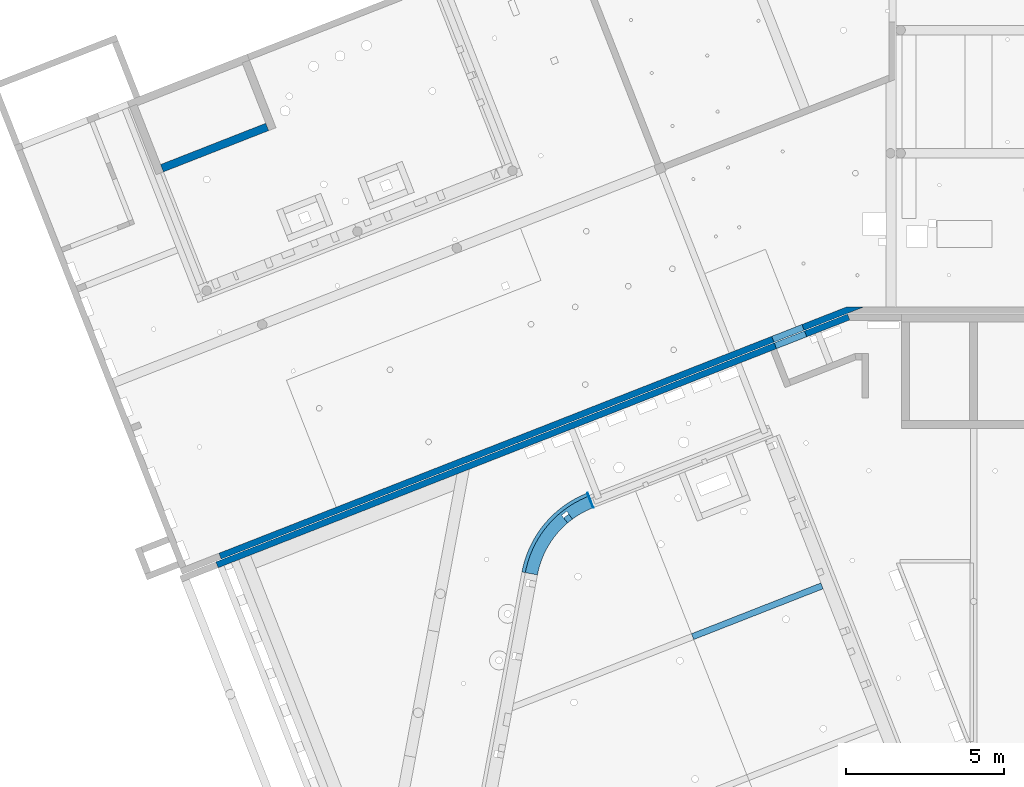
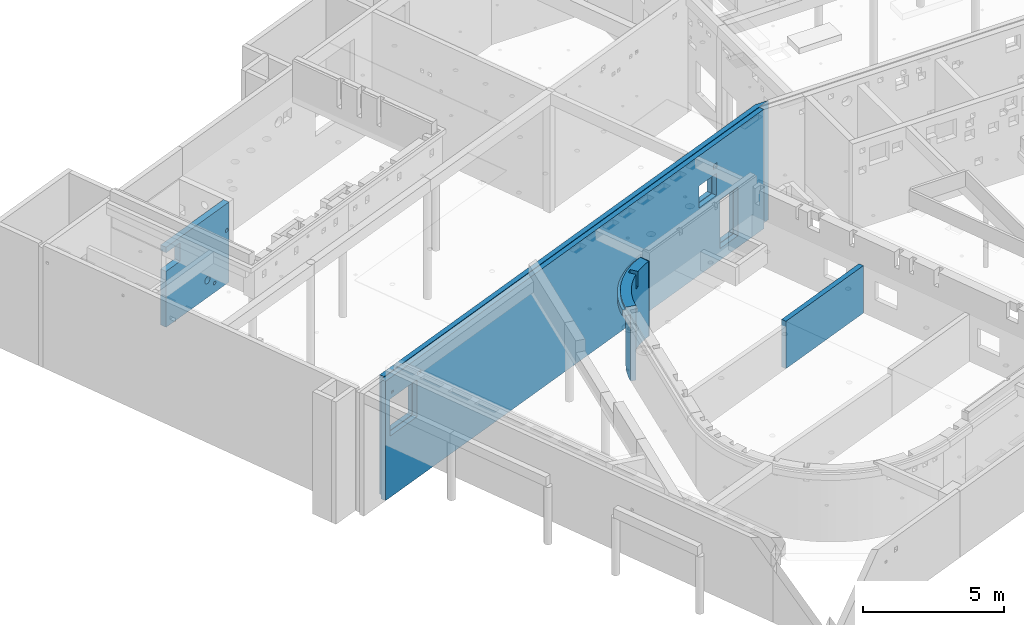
# One storey, part 17 of 28: 6 walls, 19 openings.
"""IFC2X3 building model written with IfcOpenShell, lengths in metres."""

from ifc_helpers import new_model, entity, si_unit, converted_unit, direction, frame, frame_2d, origin, origin_with_axes, place, context, subcontext, project, spatial, polyline, rectangle, outline, extrude, clip, bounded_halfspace, material, layer, layer_set, layer_usage, element, save


model = new_model("IFC2X3")

# Units and contexts
model_context = context("Model", 3, precision=1e-05, world=origin(), true_north=direction((-0.407059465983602, -0.913401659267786)))
body_context = subcontext(model_context, "Body", "Model", "MODEL_VIEW")
ifc_project = project(units=[si_unit("LENGTHUNIT", "METRE"), si_unit("AREAUNIT", "SQUARE_METRE"), si_unit("VOLUMEUNIT", "CUBIC_METRE"), si_unit("MASSUNIT", "GRAM", prefix="KILO"), converted_unit("PLANEANGLEUNIT", "DEGREE", entity("IfcPlaneAngleMeasure", 0.0174532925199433), si_unit("PLANEANGLEUNIT", "RADIAN"), dimensions=[0, 0, 0, 0, 0, 0, 0])], contexts=[model_context])

# Site, buildings, storey
site_placement = place(None, origin())
site = spatial("IfcSite", under=ifc_project, at=site_placement, Name="Site", CompositionType="ELEMENT")
building_1_placement = place(site_placement, origin())
building_1 = spatial("IfcBuilding", under=site, at=building_1_placement, Name="Site", CompositionType="COMPLEX")
building_2_placement = place(building_1_placement, origin())
building_2 = spatial("IfcBuilding", under=building_1, at=building_2_placement, Name="Bâtiments", CompositionType="ELEMENT")
storey_placement = place(building_2_placement, frame((0.0, 0.0, -5.3)))
storey = spatial("IfcBuildingStorey", under=building_2, at=storey_placement, Name="SOUS-SOL", CompositionType="ELEMENT", Elevation=-5.3)

# Wall, openings
ifc_material_1 = material(Name="Béton")
ifc_layer_1 = layer(ifc_material_1, 0.249999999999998)
ifc_layer_set_1 = layer_set([ifc_layer_1])
ifc_layer_usage_1 = layer_usage(ifc_layer_set_1, "AXIS2", "POSITIVE", 0.0)
wall_1_placement = place(storey_placement, frame((4.69306005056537, -0.737175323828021, 0.5), z_axis=(0.0, 0.0, 1.0), x_axis=(0.930910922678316, 0.365246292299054, 0.0)))
wall_1 = element("IfcWallStandardCase", 1, at=wall_1_placement, inside=storey, material=ifc_layer_usage_1, context=body_context, shape_type="SweptSolid", body=[
    extrude(rectangle(XDim=3.57767559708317, YDim=0.249999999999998, at=frame_2d((1.78883779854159, 0.124999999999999), x_axis=(1.0, 0.0))), origin_with_axes(), (0.0, 0.0, 1.0), 3.46),
])
opening_1_placement = place(wall_1_placement, frame((2.49749567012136, 0.249999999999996, 0.610000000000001), z_axis=(3.63797880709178e-15, -1.0, 0.0), x_axis=(0.0, 0.0, 1.0)))
element("IfcOpeningElement", 2, at=opening_1_placement, cuts=wall_1, Name="CVC-011", ObjectType="Opening", context=body_context, shape_type="SweptSolid", body=[
    extrude(outline(polyline([(0.15, 0.300000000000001), (0.165679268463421, 0.299178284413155), (0.181186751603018, 0.296722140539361), (0.196352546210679, 0.292658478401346), (0.211010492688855, 0.287031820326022), (0.224999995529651, 0.279903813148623), (0.23816778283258, 0.271352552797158), (0.250369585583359, 0.261471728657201), (0.261471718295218, 0.250369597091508), (0.271352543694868, 0.238167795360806), (0.279903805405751, 0.225000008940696), (0.287031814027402, 0.211010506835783), (0.292658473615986, 0.196352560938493), (0.296722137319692, 0.181186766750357), (0.299178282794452, 0.165679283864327), (0.299999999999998, 0.15000001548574), (0.299178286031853, 0.134320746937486), (0.296722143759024, 0.11881326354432), (0.292658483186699, 0.103647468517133), (0.287031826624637, 0.0889895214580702), (0.27990382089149, 0.0750000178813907), (0.271352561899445, 0.0618322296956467), (0.261471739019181, 0.0496304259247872), (0.250369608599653, 0.0385282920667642), (0.238167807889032, 0.02864746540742), (0.225000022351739, 0.0200962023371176), (0.211010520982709, 0.0129681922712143), (0.196352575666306, 0.00734153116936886), (0.181186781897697, 0.00327786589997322), (0.165679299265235, 0.00082171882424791), (0.149999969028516, 0.0), (0.13432070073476, 0.00082171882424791), (0.118813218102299, 0.00327786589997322), (0.103647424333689, 0.00734153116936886), (0.0889894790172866, 0.0129681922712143), (0.0749999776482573, 0.0200962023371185), (0.0618321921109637, 0.0286474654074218), (0.0496303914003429, 0.038528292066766), (0.0385282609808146, 0.0496304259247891), (0.0286474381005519, 0.0618322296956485), (0.0200961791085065, 0.0750000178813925), (0.0129681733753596, 0.088989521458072), (0.00734151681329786, 0.103647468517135), (0.00327785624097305, 0.118813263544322), (0.00082171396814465, 0.134320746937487), (0.0, 0.150000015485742), (0.00082171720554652, 0.165679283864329), (0.0032778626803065, 0.181186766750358), (0.00734152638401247, 0.196352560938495), (0.0129681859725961, 0.211010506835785), (0.0200961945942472, 0.225000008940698), (0.0286474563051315, 0.238167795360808), (0.038528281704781, 0.25036959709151), (0.0496304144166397, 0.261471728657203), (0.0618322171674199, 0.27135255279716), (0.0750000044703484, 0.279903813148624), (0.0889895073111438, 0.287031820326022), (0.10364745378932, 0.292658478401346), (0.118813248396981, 0.296722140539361), (0.134320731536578, 0.299178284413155), (0.15, 0.300000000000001)])), origin_with_axes(), (0.0, 0.0, 1.0), 0.249999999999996),
])
opening_2_placement = place(wall_1_placement, frame((3.08969991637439, 2.27373675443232e-16, -0.283), z_axis=(1.81898940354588e-15, 1.0, 0.0), x_axis=(0.0, 0.0, 1.0)))
element("IfcOpeningElement", 3, at=opening_2_placement, cuts=wall_1, Name="Incorp. TE-019", ObjectType="Opening", context=body_context, shape_type="SweptSolid", body=[
    extrude(outline(polyline([(0.0314999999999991, 0.0), (0.028207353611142, 0.000172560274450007), (0.0249507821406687, 0.000688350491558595), (0.0217659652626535, 0.00154171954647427), (0.0186877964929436, 0.0027233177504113), (0.0157500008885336, 0.00422019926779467), (0.0129847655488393, 0.00601596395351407), (0.0104223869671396, 0.00809093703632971), (0.00809093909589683, 0.0104223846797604), (0.00601596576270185, 0.0129847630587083), (0.00422020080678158, 0.015749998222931), (0.00272331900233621, 0.0186877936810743), (0.00154172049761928, 0.0217659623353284), (0.000688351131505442, 0.0249507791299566), (0.000172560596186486, 0.0282073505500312), (0.0, 0.0314999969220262), (0.000172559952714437, 0.0347926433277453), (0.000688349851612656, 0.0380492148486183), (0.00154171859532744, 0.0412340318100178), (0.00272331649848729, 0.0443122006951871), (0.00422019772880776, 0.0472499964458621), (0.0060159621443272, 0.050015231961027), (0.00809093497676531, 0.0525776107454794), (0.0104223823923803, 0.054909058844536), (0.0129847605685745, 0.0569840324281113), (0.0157499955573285, 0.0587797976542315), (0.0186877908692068, 0.0602766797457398), (0.0217659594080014, 0.0614582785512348), (0.0249507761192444, 0.0623116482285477), (0.0282073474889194, 0.0628274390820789), (0.0314999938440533, 0.063), (0.0347926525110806, 0.0628274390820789), (0.0380492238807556, 0.0623116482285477), (0.0412340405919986, 0.0614582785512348), (0.0443122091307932, 0.0602766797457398), (0.0472500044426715, 0.0587797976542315), (0.0500152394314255, 0.0569840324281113), (0.0525776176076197, 0.054909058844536), (0.0549090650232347, 0.0525776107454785), (0.0569840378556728, 0.0500152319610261), (0.0587798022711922, 0.0472499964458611), (0.0602766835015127, 0.0443122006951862), (0.0614582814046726, 0.0412340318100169), (0.0623116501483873, 0.0380492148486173), (0.0628274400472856, 0.0347926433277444), (0.063, 0.0314999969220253), (0.0628274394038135, 0.0282073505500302), (0.0623116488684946, 0.0249507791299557), (0.0614582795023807, 0.0217659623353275), (0.0602766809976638, 0.0186877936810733), (0.0587797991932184, 0.0157499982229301), (0.0569840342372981, 0.0129847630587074), (0.0549090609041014, 0.0104223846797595), (0.0525776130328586, 0.00809093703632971), (0.0500152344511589, 0.00601596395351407), (0.0472499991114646, 0.00422019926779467), (0.0443122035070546, 0.0027233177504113), (0.0412340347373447, 0.00154171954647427), (0.0380492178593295, 0.000688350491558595), (0.0347926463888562, 0.000172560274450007), (0.0314999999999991, 0.0)])), origin_with_axes(), (0.0, 0.0, 1.0), 0.249999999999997),
])
opening_3_placement = place(wall_1_placement, frame((3.36426465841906, 0.0, 2.23), z_axis=(1.81898940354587e-15, 1.0, 0.0), x_axis=(0.0, 0.0, 1.0)))
element("IfcOpeningElement", 4, at=opening_3_placement, cuts=wall_1, Name="Incorp.TE-018", ObjectType="Opening", context=body_context, shape_type="SweptSolid", body=[
    extrude(outline(polyline([(0.0800000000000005, 0.0), (0.0716377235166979, 0.0004382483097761), (0.0633670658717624, 0.00174819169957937), (0.0552786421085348, 0.00391547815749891), (0.04746107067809, 0.00691636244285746), (0.0400000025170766, 0.0107179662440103), (0.0329771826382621, 0.0152786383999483), (0.0264695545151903, 0.0205484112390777), (0.0205484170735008, 0.0264695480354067), (0.0152786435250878, 0.032977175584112), (0.0107179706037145, 0.0399999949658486), (0.00691636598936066, 0.0474610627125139), (0.00391548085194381, 0.055278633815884), (0.00174819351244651, 0.0633670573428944), (0.000438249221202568, 0.0716377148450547), (0.0, 0.0799999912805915), (0.000438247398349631, 0.0883622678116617), (0.00174818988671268, 0.0966329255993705), (0.0039154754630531, 0.104721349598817), (0.00691635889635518, 0.112538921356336), (0.0107179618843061, 0.119999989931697), (0.0152786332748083, 0.127022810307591), (0.0205484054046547, 0.133530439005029), (0.0264695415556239, 0.139451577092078), (0.0329771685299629, 0.144721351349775), (0.0399999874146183, 0.149282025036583), (0.0474610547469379, 0.153083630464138), (0.055278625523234, 0.156084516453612), (0.0633670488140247, 0.158251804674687), (0.0716377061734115, 0.159561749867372), (0.0799999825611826, 0.160000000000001), (0.0883622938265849, 0.159561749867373), (0.0966329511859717, 0.158251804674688), (0.104721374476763, 0.156084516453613), (0.112538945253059, 0.153083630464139), (0.120000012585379, 0.149282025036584), (0.127022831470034, 0.144721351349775), (0.133530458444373, 0.139451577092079), (0.139451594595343, 0.13353043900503), (0.144721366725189, 0.127022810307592), (0.149282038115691, 0.119999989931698), (0.153083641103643, 0.112538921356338), (0.156084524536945, 0.104721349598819), (0.158251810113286, 0.0966329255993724), (0.159561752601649, 0.0883622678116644), (0.159999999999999, 0.0799999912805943), (0.159561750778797, 0.0716377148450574), (0.158251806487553, 0.0633670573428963), (0.156084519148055, 0.0552786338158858), (0.153083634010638, 0.0474610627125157), (0.149282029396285, 0.0399999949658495), (0.144721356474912, 0.032977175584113), (0.139451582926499, 0.0264695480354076), (0.13353044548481, 0.0205484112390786), (0.127022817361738, 0.0152786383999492), (0.119999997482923, 0.0107179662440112), (0.112538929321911, 0.00691636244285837), (0.104721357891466, 0.00391547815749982), (0.0966329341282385, 0.00174819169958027), (0.0883622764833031, 0.000438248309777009), (0.0800000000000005, 0.0)])), origin_with_axes(), (0.0, 0.0, 1.0), 0.249999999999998),
])
opening_4_placement = place(wall_1_placement, frame((2.68532334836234, 1.13686837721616e-16, 0.340000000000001), z_axis=(0.0, 1.0, 0.0), x_axis=(0.0, 0.0, 1.0)))
element("IfcOpeningElement", 5, at=opening_4_placement, cuts=wall_1, Name="Incorp. TE-020", ObjectType="Opening", context=body_context, shape_type="SweptSolid", body=[
    extrude(outline(polyline([(0.0699999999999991, 0.0), (0.062683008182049, 0.000383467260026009), (0.0554461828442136, 0.00152966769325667), (0.0483688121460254, 0.00342604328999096), (0.041528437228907, 0.00605181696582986), (0.0350000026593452, 0.00937822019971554), (0.0288550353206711, 0.0133688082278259), (0.0231608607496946, 0.0179798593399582), (0.0179798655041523, 0.0231608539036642), (0.0133688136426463, 0.0288550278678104), (0.00937822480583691, 0.0349999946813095), (0.00605182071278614, 0.0415284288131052), (0.0034260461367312, 0.0483688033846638), (0.00152966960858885, 0.055446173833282), (0.000383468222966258, 0.0626829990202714), (0.0, 0.0699999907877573), (0.000383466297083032, 0.0773169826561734), (0.00152966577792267, 0.0845538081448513), (0.00342604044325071, 0.0916311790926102), (0.00605181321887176, 0.0984715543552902), (0.00937821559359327, 0.104999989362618), (0.0133688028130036, 0.111144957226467), (0.0179798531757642, 0.116839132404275), (0.0231608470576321, 0.122020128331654), (0.0288550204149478, 0.126631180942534), (0.0349999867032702, 0.130621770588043), (0.0415284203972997, 0.133948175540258), (0.0483687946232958, 0.136573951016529), (0.0554461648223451, 0.138470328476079), (0.0626829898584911, 0.139616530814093), (0.0699999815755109, 0.140000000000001), (0.0773170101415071, 0.139616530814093), (0.0845538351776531, 0.138470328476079), (0.0916312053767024, 0.136573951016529), (0.0984715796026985, 0.133948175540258), (0.105000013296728, 0.130621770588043), (0.11114497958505, 0.126631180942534), (0.116839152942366, 0.122020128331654), (0.122020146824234, 0.116839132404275), (0.126631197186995, 0.111144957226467), (0.130621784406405, 0.104999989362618), (0.133948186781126, 0.0984715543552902), (0.136573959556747, 0.0916311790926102), (0.138470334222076, 0.0845538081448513), (0.139616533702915, 0.0773169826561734), (0.139999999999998, 0.0699999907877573), (0.139616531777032, 0.0626829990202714), (0.138470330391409, 0.055446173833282), (0.136573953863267, 0.0483688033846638), (0.133948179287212, 0.0415284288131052), (0.130621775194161, 0.0349999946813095), (0.126631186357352, 0.0288550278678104), (0.122020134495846, 0.0231608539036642), (0.116839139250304, 0.0179798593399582), (0.111144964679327, 0.0133688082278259), (0.104999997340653, 0.00937822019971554), (0.0984715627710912, 0.00605181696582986), (0.0916311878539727, 0.00342604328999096), (0.0845538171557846, 0.00152966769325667), (0.0773169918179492, 0.000383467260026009), (0.0699999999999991, 0.0)])), origin_with_axes(), (0.0, 0.0, 1.0), 0.249999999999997),
])
opening_5_placement = place(wall_1_placement, frame((0.0, 0.0, 2.42), z_axis=(-9.0949470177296e-16, 1.0, 0.0), x_axis=(0.0, 0.0, 1.0)))
element("IfcOpeningElement", 6, at=opening_5_placement, cuts=wall_1, Name="Trappe", ObjectType="Opening", context=body_context, shape_type="SweptSolid", body=[
    extrude(outline(polyline([(0.0, 0.800003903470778), (0.8, 0.800003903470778), (0.8, 0.0), (0.0, 0.0), (0.0, 0.800003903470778)])), origin_with_axes(), (0.0, 0.0, 1.0), 0.249999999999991),
])

ifc_material_2 = material(Name="Béton")
ifc_layer_2 = layer(ifc_material_2, 0.199999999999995)
ifc_layer_set_2 = layer_set([ifc_layer_2])
ifc_layer_usage_2 = layer_usage(ifc_layer_set_2, "AXIS2", "POSITIVE", -0.200000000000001)
wall_2_placement = place(storey_placement, frame((6.42500237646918, -13.2707319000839, 0.0), z_axis=(0.0, 0.0, 1.0), x_axis=(0.930909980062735, 0.365248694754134, 0.0)))
wall_2 = element("IfcWallStandardCase", 7, at=wall_2_placement, inside=storey, material=ifc_layer_usage_2, context=body_context, shape_type="SweptSolid", body=[
    extrude(outline(polyline([(0.068002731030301, -0.0266813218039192), (20.3593346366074, -0.0266813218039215), (20.3593347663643, -0.0266038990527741), (20.5593350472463, -0.026603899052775), (20.5593349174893, -0.0266813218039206), (21.5483266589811, -0.0266813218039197), (21.5483266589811, 0.173318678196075), (0.0680027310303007, 0.173318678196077), (0.068002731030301, -0.0266813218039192)])), frame((-0.068002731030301, 0.0266813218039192, 0.0), z_axis=(0.0, 0.0, 1.0), x_axis=(1.0, 0.0, 0.0)), (0.0, 0.0, 1.0), 5.16),
])
opening_6_placement = place(wall_2_placement, frame((20.0192441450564, 0.199999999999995, 0.5), z_axis=(-1.81898940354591e-14, -1.0, 0.0), x_axis=(0.0, 0.0, 1.0)))
element("IfcOpeningElement", 8, at=opening_6_placement, cuts=wall_2, Name="Baie de porte", ObjectType="Opening", context=body_context, shape_type="SweptSolid", body=[
    extrude(outline(polyline([(0.0, 1.03), (2.1, 1.03), (2.1, 0.0), (0.0, 0.0), (0.0, 1.03)])), origin_with_axes(), (0.0, 0.0, 1.0), 0.199999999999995),
])
opening_7_placement = place(wall_2_placement, frame((18.8185251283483, 0.200000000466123, 4.12), z_axis=(-2.2262738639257e-08, -1.0, 0.0), x_axis=(0.0, 0.0, 1.0)))
element("IfcOpeningElement", 9, at=opening_7_placement, cuts=wall_2, Name="PB-078", ObjectType="Opening", context=body_context, shape_type="SweptSolid", body=[
    extrude(outline(polyline([(0.0, 0.2), (0.2, 0.2), (0.2, 0.0), (0.0, 0.0), (0.0, 0.2)])), origin_with_axes(), (0.0, 0.0, 1.0), 0.199999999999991),
])
opening_8_placement = place(wall_2_placement, frame((18.7903994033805, 0.199999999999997, 2.91), z_axis=(0.0, -1.0, 0.0), x_axis=(0.0, 0.0, 1.0)))
element("IfcOpeningElement", 10, at=opening_8_placement, cuts=wall_2, Name="Percement dans mur", ObjectType="Opening", context=body_context, shape_type="SweptSolid", body=[
    extrude(outline(polyline([(0.0, 1.0), (0.95, 1.0), (0.95, 0.0), (0.0, 0.0), (0.0, 1.0)])), origin_with_axes(), (0.0, 0.0, 1.0), 0.199999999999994),
])
opening_9_placement = place(wall_2_placement, frame((0.448573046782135, 0.200008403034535, 4.45), z_axis=(-2.22627690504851e-08, -1.0, 0.0), x_axis=(0.0, 0.0, 1.0)))
element("IfcOpeningElement", 11, at=opening_9_placement, cuts=wall_2, Name="TE-089", ObjectType="Opening", context=body_context, shape_type="SweptSolid", body=[
    extrude(outline(polyline([(0.0, 0.1), (0.1, 0.1), (0.1, 0.0), (0.0, 0.0), (0.0, 0.1)])), origin_with_axes(), (0.0, 0.0, 1.0), 0.2),
])
opening_10_placement = place(wall_2_placement, frame((1.79278509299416, 0.200000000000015, 2.65), z_axis=(1.13686837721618e-15, -1.0, 0.0), x_axis=(0.0, 0.0, 1.0)))
element("IfcOpeningElement", 12, at=opening_10_placement, cuts=wall_2, Name="Percement dans mur", ObjectType="Opening", context=body_context, shape_type="SweptSolid", body=[
    extrude(outline(polyline([(0.0, 1.54999999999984), (1.6, 1.54999999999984), (1.6, 0.0), (0.0, 0.0), (0.0, 1.54999999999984)])), origin_with_axes(), (0.0, 0.0, 1.0), 0.199999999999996),
])
opening_11_placement = place(wall_2_placement, frame((2.02414170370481, 0.200001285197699, 4.45), z_axis=(-2.22627613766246e-08, -1.0, 0.0), x_axis=(0.0, 0.0, 1.0)))
element("IfcOpeningElement", 13, at=opening_11_placement, cuts=wall_2, Name="PB-098", ObjectType="Opening", context=body_context, shape_type="SweptSolid", body=[
    extrude(outline(polyline([(0.0, 0.2), (0.1, 0.2), (0.1, 0.0), (0.0, 0.0), (0.0, 0.2)])), origin_with_axes(), (0.0, 0.0, 1.0), 0.19999999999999),
])

ifc_material_3 = material(Name="Béton")
ifc_layer_3 = layer(ifc_material_3, 0.199999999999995)
ifc_layer_set_3 = layer_set([ifc_layer_3])
ifc_layer_usage_3 = layer_usage(ifc_layer_set_3, "AXIS2", "POSITIVE", -0.200000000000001)
wall_3_placement = place(storey_placement, frame((6.5228678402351, -12.9960045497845, 0.0), z_axis=(0.0, 0.0, 1.0), x_axis=(0.93090998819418, 0.365248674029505, 0.0)))
wall_3 = element("IfcWallStandardCase", 14, at=wall_3_placement, inside=storey, material=ifc_layer_usage_3, context=body_context, shape_type="SweptSolid", body=[
    extrude(outline(polyline([(0.068002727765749, -0.0266813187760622), (21.9082296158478, -0.0266813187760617), (21.3984924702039, 0.173318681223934), (0.0680027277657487, 0.173318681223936), (0.068002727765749, -0.0266813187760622)])), frame((-0.068002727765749, 0.0266813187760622, 0.0), z_axis=(0.0, 0.0, 1.0), x_axis=(1.0, 0.0, 0.0)), (0.0, 0.0, 1.0), 5.16),
])
opening_12_placement = place(wall_3_placement, frame((19.8277989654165, 0.199999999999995, 0.5), z_axis=(0.0, -1.0, 0.0), x_axis=(0.0, 0.0, 1.0)))
element("IfcOpeningElement", 15, at=opening_12_placement, cuts=wall_3, Name="Baie de porte", ObjectType="Opening", context=body_context, shape_type="SweptSolid", body=[
    extrude(outline(polyline([(0.0, 1.03), (2.1, 1.03), (2.1, 0.0), (0.0, 0.0), (0.0, 1.03)])), origin_with_axes(), (0.0, 0.0, 1.0), 0.199999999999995),
])
opening_13_placement = place(wall_3_placement, frame((1.60133990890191, 0.199999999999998, 2.65), z_axis=(2.27373675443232e-15, -1.0, 0.0), x_axis=(0.0, 0.0, 1.0)))
element("IfcOpeningElement", 16, at=opening_13_placement, cuts=wall_3, Name="CVC-020", ObjectType="Opening", context=body_context, shape_type="SweptSolid", body=[
    extrude(outline(polyline([(0.0, 1.55), (1.6, 1.55), (1.6, 0.0), (0.0, 0.0), (0.0, 1.55)])), origin_with_axes(), (0.0, 0.0, 1.0), 0.2),
])
opening_14_placement = place(wall_3_placement, frame((18.5957630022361, 0.199999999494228, 2.91), z_axis=(0.0, -1.0, 0.0), x_axis=(0.0, 0.0, 1.0)))
element("IfcOpeningElement", 17, at=opening_14_placement, cuts=wall_3, Name="CVC-019", ObjectType="Opening", context=body_context, shape_type="SweptSolid", body=[
    extrude(outline(polyline([(0.0, 0.999999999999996), (0.95, 0.999999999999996), (0.95, 0.0), (0.0, 0.0), (0.0, 0.999999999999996)])), origin_with_axes(), (0.0, 0.0, 1.0), 0.200000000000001),
])
opening_15_placement = place(wall_3_placement, frame((18.6270805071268, 0.200000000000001, 4.12), z_axis=(1.81898940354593e-14, -1.0, 0.0), x_axis=(0.0, 0.0, 1.0)))
element("IfcOpeningElement", 18, at=opening_15_placement, cuts=wall_3, Name="PB-078", ObjectType="Opening", context=body_context, shape_type="SweptSolid", body=[
    extrude(outline(polyline([(0.0, 0.199999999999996), (0.2, 0.199999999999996), (0.2, 0.0), (0.0, 0.0), (0.0, 0.199999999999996)])), origin_with_axes(), (0.0, 0.0, 1.0), 0.199999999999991),
])
opening_16_placement = place(wall_3_placement, frame((1.83217397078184, 0.2, 4.45), z_axis=(1.13686837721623e-15, -1.0, 0.0), x_axis=(0.0, 0.0, 1.0)))
element("IfcOpeningElement", 19, at=opening_16_placement, cuts=wall_3, Name="PB-098", ObjectType="Opening", context=body_context, shape_type="SweptSolid", body=[
    extrude(outline(polyline([(0.0, 0.2), (0.1, 0.2), (0.1, 0.0), (0.0, 0.0), (0.0, 0.2)])), origin_with_axes(), (0.0, 0.0, 1.0), 0.199999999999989),
])
opening_17_placement = place(wall_3_placement, frame((0.257128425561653, 0.20000840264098, 4.45), z_axis=(-6.25277607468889e-15, -1.0, 0.0), x_axis=(0.0, 0.0, 1.0)))
element("IfcOpeningElement", 20, at=opening_17_placement, cuts=wall_3, Name="TE-089", ObjectType="Opening", context=body_context, shape_type="SweptSolid", body=[
    extrude(outline(polyline([(0.0, 0.1), (0.1, 0.1), (0.1, 0.0), (0.0, 0.0), (0.0, 0.1)])), origin_with_axes(), (0.0, 0.0, 1.0), 0.2),
])

# Wall
ifc_material_4 = material(Name="Béton")
ifc_layer_4 = layer(ifc_material_4, 0.199999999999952)
ifc_layer_set_4 = layer_set([ifc_layer_4])
ifc_layer_usage_4 = layer_usage(ifc_layer_set_4, "AXIS2", "POSITIVE", -0.199999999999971)
wall_4_placement = place(storey_placement, frame((25.5056345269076, -13.7509255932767, 1.81), z_axis=(0.0, 0.0, 1.0), x_axis=(-0.93091019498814, -0.365248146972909, 0.0)))
element("IfcWallStandardCase", 21, at=wall_4_placement, inside=storey, material=ifc_layer_usage_4, context=body_context, shape_type="SweptSolid", body=[
    extrude(outline(polyline([(-4.46801378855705, -0.173318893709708), (-0.0680026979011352, -0.173318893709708), (-0.0680022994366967, 0.026681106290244), (-4.4680139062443, 0.0266811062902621), (-4.46801378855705, -0.173318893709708)])), frame((4.46801378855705, 0.173318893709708, 0.0), z_axis=(0.0, 0.0, 1.0), x_axis=(1.0, 0.0, 0.0)), (0.0, 0.0, 1.0), 2.05),
])

# Wall, openings
ifc_material_5 = material(Name="Béton")
ifc_layer_5 = layer(ifc_material_5, 0.199999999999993)
ifc_material_6 = material(Name="Béton")
ifc_layer_6 = layer(ifc_material_6, 0.19)
ifc_material_7 = material(Name="Béton")
ifc_layer_7 = layer(ifc_material_7, 0.11)
ifc_layer_set_5 = layer_set([ifc_layer_5, ifc_layer_6, ifc_layer_7])
ifc_layer_usage_5 = layer_usage(ifc_layer_set_5, "AXIS2", "NEGATIVE", 0.0)
wall_5_placement = place(storey_placement, frame((19.3258337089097, -14.0178489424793, 1.81)))
wall_5 = element("IfcWallStandardCase", 22, at=wall_5_placement, inside=storey, material=ifc_layer_usage_5, context=body_context, shape_type="Clipping", body=[
    clip(clip(extrude(outline(polyline([(2.06382502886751, 2.58784926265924), (1.98239870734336, 2.55590110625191), (1.82312901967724, 2.48357644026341), (1.66786278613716, 2.40301536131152), (1.51702558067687, 2.3144386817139), (1.37103083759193, 2.21808918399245), (1.23027871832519, 2.11423095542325), (1.09515501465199, 2.0031486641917), (0.966030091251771, 1.88514677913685), (0.843257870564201, 1.76054873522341), (0.727174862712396, 1.62969604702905), (0.61809924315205, 1.49294737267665), (0.516329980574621, 1.35067753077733), (0.422146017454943, 1.20327647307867), (0.335805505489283, 1.05114821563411), (0.257545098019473, 0.89470973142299), (0.187579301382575, 0.734389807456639), (0.126099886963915, 0.570627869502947), (0.0732753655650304, 0.403872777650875), (0.0292505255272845, 0.234581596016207), (0.0, 0.0917945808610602), (0.294947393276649, 0.0367178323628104), (0.294977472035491, 0.0367129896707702), (0.491578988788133, 0.0), (0.516450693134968, 0.121411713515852), (0.553884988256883, 0.265359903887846), (0.598801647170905, 0.407151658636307), (0.651077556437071, 0.546398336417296), (0.71056943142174, 0.682718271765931), (0.777114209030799, 0.815737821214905), (0.8505294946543, 0.945092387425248), (0.930614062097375, 1.07042741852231), (1.01714840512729, 1.19139937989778), (1.10989533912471, 1.3076766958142), (1.20860065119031, 1.41894065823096), (1.31299379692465, 1.52488630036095), (1.42278864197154, 1.62522323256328), (1.53768424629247, 1.71967643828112), (1.65736568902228, 1.80798702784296), (1.7815049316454, 1.8899129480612), (1.90976171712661, 1.96522964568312), (2.04178450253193, 2.03373068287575), (2.17721142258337, 2.09522830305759), (2.24644135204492, 2.12239112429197), (2.1039943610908, 2.48544601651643), (2.06382502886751, 2.58784926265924)])), frame((-3.28374764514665, 0.521393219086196, 0.0), z_axis=(0.0, 0.0, 1.0), x_axis=(1.0, 0.0, 0.0)), (0.0, 0.0, 1.0), 3.24), bounded_halfspace(frame((-2.29768040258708, 1.97712639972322, 2.88), z_axis=(0.0, 0.0, 1.0), x_axis=(-0.930909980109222, -0.365248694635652, 0.0)), True, origin_with_axes(), polyline([(-1.21992261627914, 3.10924248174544), (-1.30134893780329, 3.0772943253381), (-1.46061862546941, 3.0049696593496), (-1.61588485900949, 2.92440858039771), (-1.76672206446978, 2.8358319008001), (-1.91271680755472, 2.73948240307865), (-2.05346892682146, 2.63562417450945), (-2.18859263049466, 2.5245418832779), (-2.31771755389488, 2.40653999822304), (-2.44048977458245, 2.28194195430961), (-2.55657278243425, 2.15108926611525), (-2.6656484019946, 2.01434059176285), (-2.76741766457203, 1.87207074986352), (-2.86160162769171, 1.72466969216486), (-2.94794213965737, 1.5725414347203), (-3.02620254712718, 1.41610295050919), (-3.09616834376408, 1.25578302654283), (-3.15764775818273, 1.09202108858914), (-3.21047227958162, 0.925265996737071), (-3.25449711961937, 0.755974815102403), (-3.28374764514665, 0.613187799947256), (-2.98880025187, 0.558111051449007), (-2.96217701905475, 0.688072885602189), (-2.92210650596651, 0.842158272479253), (-2.87402670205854, 0.993935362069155), (-2.81806939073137, 1.14298814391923), (-2.75438794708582, 1.28890807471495), (-2.68315691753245, 1.43129519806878), (-2.60457154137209, 1.56975924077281), (-2.51884721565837, 1.70392068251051), (-2.42621890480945, 1.83341179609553), (-2.32694049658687, 1.95787765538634), (-2.22128410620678, 2.07697710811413), (-2.10953933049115, 2.1903837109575), (-1.99201245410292, 2.29778662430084), (-1.86902561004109, 2.39889146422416), (-1.74091589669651, 2.49342110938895), (-1.60803445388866, 2.58111646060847), (-1.47074550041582, 2.66173715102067), (-1.32942533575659, 2.73506220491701), (-1.18446130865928, 2.80089064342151), (-1.11035603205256, 2.82996633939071), (-1.17975328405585, 3.00683923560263), (-1.21992261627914, 3.10924248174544)]))), bounded_halfspace(frame((-2.39351661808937, 2.01075923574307, 3.14), z_axis=(0.0, 0.0, -1.0), x_axis=(-0.930909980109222, -0.365248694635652, 0.0)), True, origin_with_axes(), polyline([(-1.21992261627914, 3.10924248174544), (-1.30134893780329, 3.0772943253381), (-1.46061862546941, 3.0049696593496), (-1.61588485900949, 2.92440858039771), (-1.76672206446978, 2.8358319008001), (-1.91271680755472, 2.73948240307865), (-2.05346892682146, 2.63562417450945), (-2.18859263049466, 2.5245418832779), (-2.31771755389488, 2.40653999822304), (-2.44048977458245, 2.28194195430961), (-2.55657278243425, 2.15108926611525), (-2.6656484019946, 2.01434059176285), (-2.76741766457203, 1.87207074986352), (-2.86160162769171, 1.72466969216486), (-2.94794213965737, 1.5725414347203), (-3.02620254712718, 1.41610295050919), (-3.09616834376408, 1.25578302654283), (-3.15764775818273, 1.09202108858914), (-3.21047227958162, 0.925265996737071), (-3.25449711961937, 0.755974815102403), (-3.28374764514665, 0.613187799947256), (-3.17560026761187, 0.592992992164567), (-3.14731308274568, 0.731077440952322), (-3.10473816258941, 0.894793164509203), (-3.05365337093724, 1.05605632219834), (-2.99419872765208, 1.21442490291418), (-2.92653719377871, 1.36946482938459), (-2.85085422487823, 1.52075114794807), (-2.76735726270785, 1.66786919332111), (-2.67627516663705, 1.81041572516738), (-2.57785758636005, 1.94800003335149), (-2.47237427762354, 2.08024500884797), (-2.36011436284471, 2.20678817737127), (-2.24138553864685, 2.32728269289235), (-2.11651323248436, 2.44139828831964), (-1.98583971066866, 2.54882218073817), (-1.84972314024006, 2.64925992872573), (-1.70853660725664, 2.74243623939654), (-1.56266709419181, 2.82809572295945), (-1.4125144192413, 2.90600359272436), (-1.25849014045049, 2.97594630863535), (-1.17975328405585, 3.00683923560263), (-1.21992261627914, 3.10924248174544)]))),
])
opening_18_placement = place(wall_5_placement, frame((-1.84314192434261, 2.16203070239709, 2.59), z_axis=(0.0, 0.0, 1.0), x_axis=(0.8031894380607, 0.595723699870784, 0.0)))
element("IfcOpeningElement", 23, at=opening_18_placement, cuts=wall_5, Name="Percement dans mur", ObjectType="Opening", context=body_context, shape_type="SweptSolid", body=[
    extrude(outline(polyline([(0.00265343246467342, 0.200055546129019), (0.00765214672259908, 6.37975541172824e-05), (0.0348835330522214, 5.39352099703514e-05), (0.111702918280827, 0.00197400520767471), (0.183806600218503, -2.8421709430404e-16), (0.202656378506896, 1.53350608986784e-05), (0.20273056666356, 0.200055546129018), (0.203417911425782, 0.311595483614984), (-2.55795384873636e-16, 0.306362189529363), (0.00265343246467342, 0.200055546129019)])), origin_with_axes(), (0.0, 0.0, 1.0), 0.65),
])
opening_19_placement = place(wall_5_placement, frame((-1.0605764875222, 2.63465123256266, 2.08), z_axis=(0.0, 0.0, 1.0), x_axis=(0.930914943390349, 0.365236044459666, 0.0)))
element("IfcOpeningElement", 24, at=opening_19_placement, cuts=wall_5, Name="Percement dans mur", ObjectType="Opening", context=body_context, shape_type="SweptSolid", body=[
    extrude(outline(polyline([(0.0, 0.0), (0.0500000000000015, -3.62376795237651e-16), (0.0500000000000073, 0.0500000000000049), (5.74473801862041e-15, 0.0500000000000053), (0.0, 0.0)])), origin_with_axes(), (0.0, 0.0, 1.0), 1.16),
])

# Wall
ifc_material_8 = material(Name="Béton")
ifc_layer_8 = layer(ifc_material_8, 0.199999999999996)
ifc_material_9 = material(Name="Béton")
ifc_layer_9 = layer(ifc_material_9, 0.189999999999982)
ifc_material_10 = material(Name="Béton")
ifc_layer_10 = layer(ifc_material_10, 0.110000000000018)
ifc_layer_set_6 = layer_set([ifc_layer_8, ifc_layer_9, ifc_layer_10])
ifc_layer_usage_6 = layer_usage(ifc_layer_set_6, "AXIS2", "POSITIVE", 0.0)
wall_6_placement = place(storey_placement, frame((18.288527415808, -11.3740645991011, 1.81), z_axis=(0.0, 0.0, 1.0), x_axis=(0.93091018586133, 0.365248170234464, 0.0)))
element("IfcWallStandardCase", 25, at=wall_6_placement, inside=storey, material=ifc_layer_usage_6, context=body_context, shape_type="Clipping", body=[
    clip(clip(extrude(outline(polyline([(0.169999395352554, -0.0667002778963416), (0.195001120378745, -0.0667002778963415), (0.195000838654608, 0.433299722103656), (0.170007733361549, 0.433299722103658), (0.169999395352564, 0.32329972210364), (0.169999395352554, -0.0667002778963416)])), frame((-0.169999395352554, 0.0667002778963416, 0.0), z_axis=(0.0, 0.0, 1.0), x_axis=(1.0, 0.0, 0.0)), (0.0, 0.0, 1.0), 3.24), bounded_halfspace(frame((0.0100022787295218, 0.357999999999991, 2.88), z_axis=(2.88006664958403e-15, 3.78980578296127e-16, 1.0), x_axis=(1.0, -4.2410519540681e-14, -9.09436049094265e-15)), True, origin_with_axes(), polyline([(2.89901436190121e-15, 0.199999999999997), (0.0250016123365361, 0.199999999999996), (0.025001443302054, 0.499999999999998), (8.33800899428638e-06, 0.499999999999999), (9.57811607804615e-15, 0.389999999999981), (2.89901436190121e-15, 0.199999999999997)]))), bounded_halfspace(frame((0.012502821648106, 0.44499999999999, 3.16), z_axis=(0.0, 0.0, -1.0), x_axis=(1.0, -3.46944695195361e-14, 0.0)), True, origin_with_axes(), polyline([(9.57811607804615e-15, 0.389999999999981), (0.0250015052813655, 0.38999999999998), (0.025001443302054, 0.499999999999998), (8.33800899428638e-06, 0.499999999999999), (9.57811607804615e-15, 0.389999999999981)]))),
])

save(model, "model.ifc")
